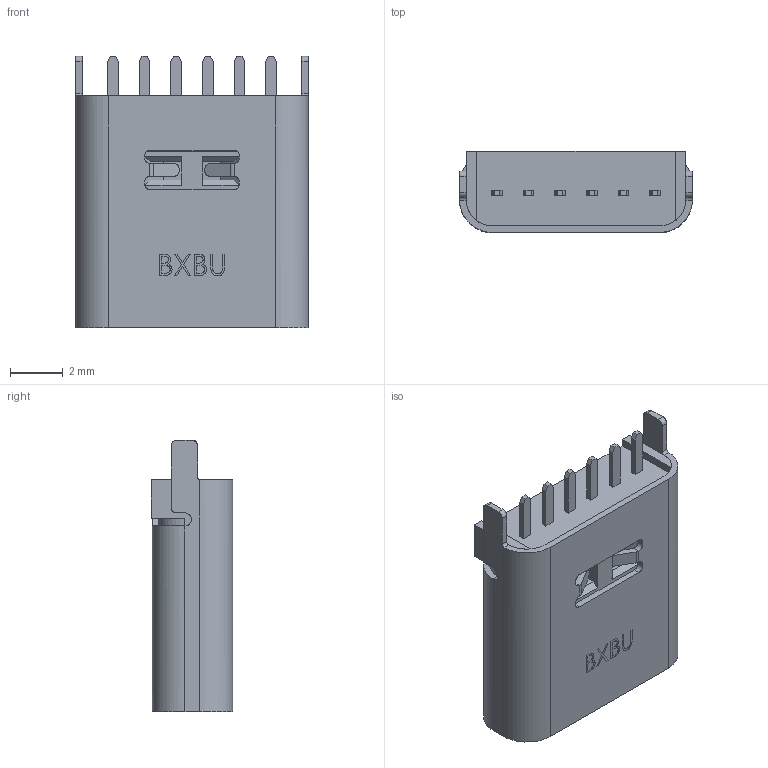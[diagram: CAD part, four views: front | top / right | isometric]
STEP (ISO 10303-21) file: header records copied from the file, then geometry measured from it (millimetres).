
FILE_DESCRIPTION (( 'STEP AP214' ), '1' );
FILE_NAME ('U5439-06PN8.8L.STEP', '2026-07-10T05:45:13', ( '' ), ( '' ), 'SwSTEP 2.0', 'SolidWorks 2024', '' );
FILE_SCHEMA (( 'AUTOMOTIVE_DESIGN' ));
Length unit declared in the file: millimetre
Products named in the file (1): U5439-06PN8.8L
Bounding box: 8.85 x 3.08 x 10.3 mm (x, y, z)
Surface area: 488.3 mm2 (no closed solid volume)
Topology: 0 solids, 4 shells, 166 faces, 530 edges, 381 vertices
Faces by surface type: plane 124, cylinder 38, cone 4
Entity records: 6823 total; most frequent: CARTESIAN_POINT 3107, ORIENTED_EDGE 981, EDGE_CURVE 530, B_SPLINE_CURVE_WITH_KNOTS 494, VERTEX_POINT 381, DIRECTION 370, EDGE_LOOP 185, AXIS2_PLACEMENT_3D 167
